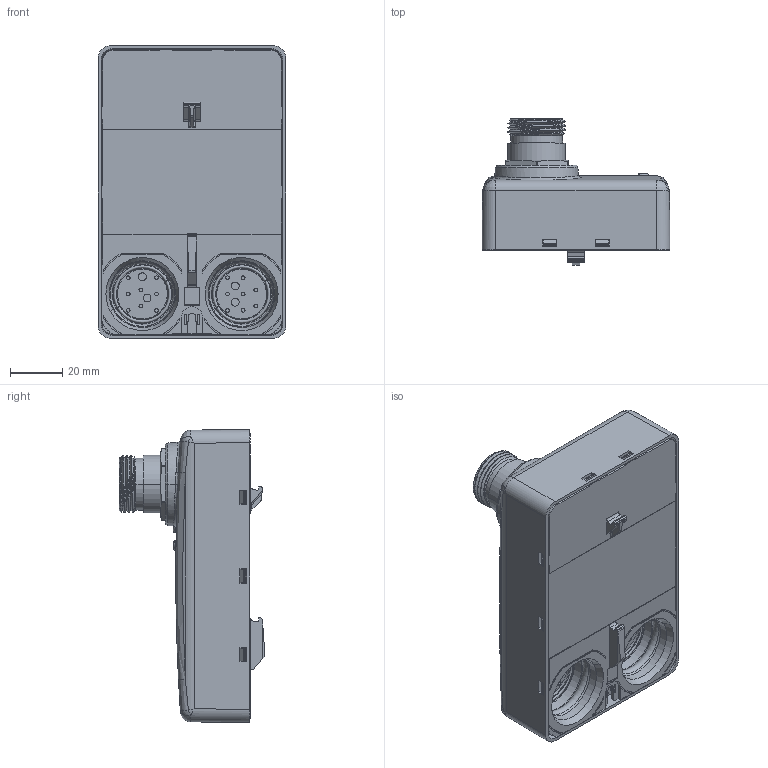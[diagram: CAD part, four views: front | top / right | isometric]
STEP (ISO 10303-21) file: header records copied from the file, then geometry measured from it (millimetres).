
FILE_DESCRIPTION((''),'2;1');
FILE_NAME('1738-EP24DC_ASM','2012-03-16T',('YSupria'),('Rockwell Automation'),'PRO/ENGINEER BY PARAMETRIC TECHNOLOGY CORPORATION, 2010140','PRO/ENGINEER BY PARAMETRIC TECHNOLOGY CORPORATION, 2010140','');
FILE_SCHEMA(('CONFIG_CONTROL_DESIGN'));
Products named in the file (1): 1738-EP24DC_ASM
Bounding box: 71.6 x 55.58 x 111.6 mm (x, y, z)
Volume: 9282.7 mm3; surface area: 80513.8 mm2
Topology: 10 solids, 12 shells, 3258 faces, 9233 edges, 6096 vertices
Faces by surface type: plane 2551, cylinder 383, cone 167, torus 82, bspline 45, sphere 20, extrusion 10
Entity records: 109292 total; most frequent: CARTESIAN_POINT 25341, ORIENTED_EDGE 18295, DIRECTION 15890, EDGE_CURVE 9209, VECTOR 7440, LINE 7430, VERTEX_POINT 6096, AXIS2_PLACEMENT_3D 4225
